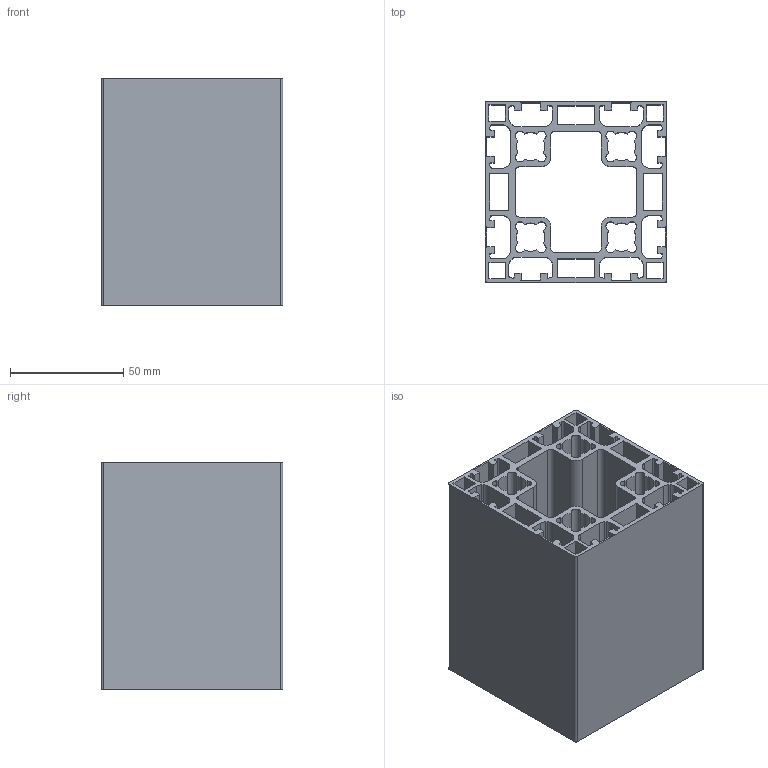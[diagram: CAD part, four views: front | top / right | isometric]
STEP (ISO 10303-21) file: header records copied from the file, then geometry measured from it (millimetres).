
FILE_DESCRIPTION((''),'2;1');
FILE_NAME('C:\Users\de2afr0\Desktop\New folder\MS40+ BC 80x80.stp','2014-02-28T13:13:27',('de2afr0'),(''),'Autodesk Inventor 2011','Autodesk Inventor 2011','');
FILE_SCHEMA(('AUTOMOTIVE_DESIGN { 1 0 10303 214 1 1 1 1 }'));
Length unit declared in the file: millimetre
Products named in the file (1): MB01159801
Bounding box: 80 x 80 x 100 mm (x, y, z)
Volume: 175606.1 mm3; surface area: 159661.9 mm2
Topology: 1 solids, 1 shells, 322 faces, 960 edges, 640 vertices
Faces by surface type: plane 210, cylinder 112
Entity records: 10918 total; most frequent: CARTESIAN_POINT 1923, ORIENTED_EDGE 1920, DIRECTION 1830, EDGE_CURVE 960, VECTOR 736, LINE 736, VERTEX_POINT 640, AXIS2_PLACEMENT_3D 547
